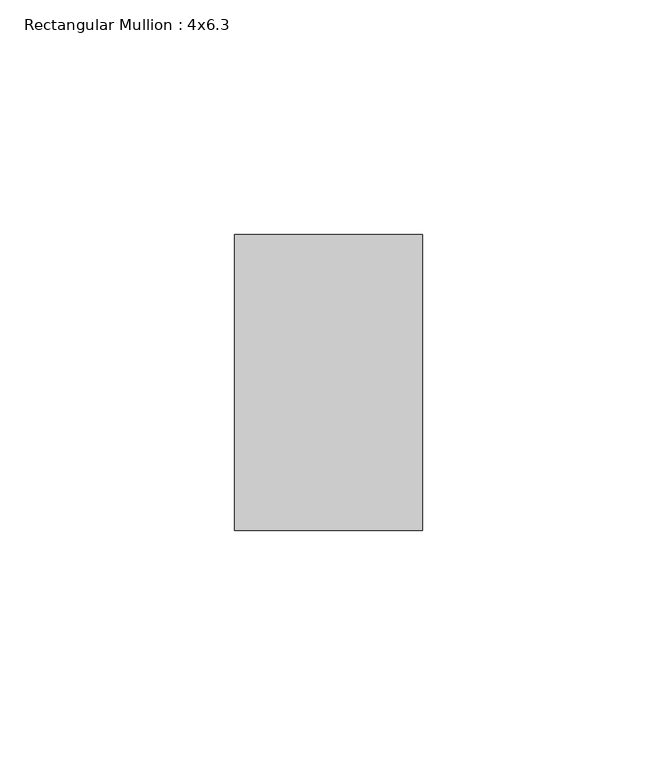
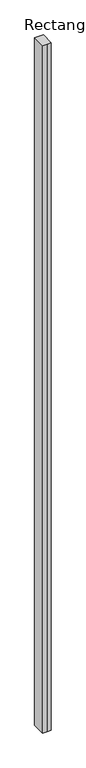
"""IFC4 building model written with IfcOpenShell, lengths in millimetres: member geometry, Rectangular Mullion : 4x6.3."""

from ifc_helpers import new_model, si_unit, frame, origin, place, context, project, spatial, polyline, outline, extrude, source, transform, mapped, element, save


def rectangular_mullion_4x6_3_99f1305b(model_context):
    return source(origin(), model_context, "Body", "SweptSolid", [
        extrude(outline(polyline([(-20.0, 20.0), (-20.0, 83.0), (20.0, 83.0), (20.0, 20.0), (0.0, 20.0), (-20.0, 20.0)])), frame((0.0, 0.0, -3357.8718636), z_axis=(0.0, 0.0, 1.0), x_axis=(1.0, 0.0, 0.0)), (0.0, 0.0, 1.0), 3357.8718636),
    ])


if __name__ == "__main__":
    model = new_model("IFC4")
    model_context = context("Model", 3, world=origin())
    ifc_project = project(units=[si_unit("LENGTHUNIT", "METRE", prefix="MILLI")], contexts=[model_context])
    site = spatial("IfcSite", under=ifc_project)
    building = spatial("IfcBuilding", under=site)
    placement = place(None, origin())
    rectangular_mullion_4x6_3_shape = rectangular_mullion_4x6_3_99f1305b(model_context)
    element("IfcMember", 1, ObjectType="Rectangular Mullion : 4x6.3", at=placement, inside=building, context=model_context, shape_type="MappedRepresentation", body=[
        mapped(rectangular_mullion_4x6_3_shape, transform((0.0, 0.0, 0.0), x_axis=(1.0, 0.0, 0.0), y_axis=(0.0, 1.0, 0.0), z_axis=(0.0, 0.0, 1.0))),
    ])
    save(model, "model.ifc")
